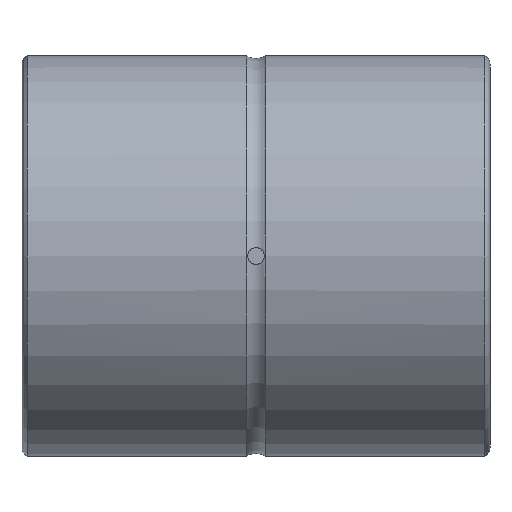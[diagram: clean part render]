
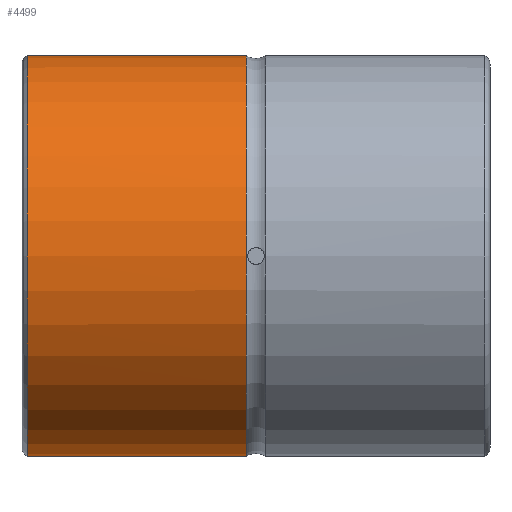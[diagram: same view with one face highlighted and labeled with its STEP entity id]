
A CAD part, front view. The second image highlights one B-rep face of the part: STEP entity #4499.
In plain terms, the highlighted cylindrical face has radius 60 mm (diameter 120 mm), a full revolution.
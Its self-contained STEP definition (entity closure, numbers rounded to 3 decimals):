
#23=B_SPLINE_CURVE_WITH_KNOTS('',3,(#7394,#7395,#7396,#7397,#7398,#7399,
#7400,#7401,#7402,#7403,#7404),.UNSPECIFIED.,.F.,.F.,(4,1,1,1,1,1,1,1,4),
(0.,0.004,0.008,0.012,
0.016,0.02,0.023,0.027,
0.031),.UNSPECIFIED.);
#418=LINE('',#7407,#848);
#419=LINE('',#7408,#849);
#848=VECTOR('',#5933,1000.);
#849=VECTOR('',#5934,1000.);
#1648=ORIENTED_EDGE('',*,*,#2769,.T.);
#1649=ORIENTED_EDGE('',*,*,#2770,.T.);
#1650=ORIENTED_EDGE('',*,*,#2762,.F.);
#1651=ORIENTED_EDGE('',*,*,#2771,.T.);
#1652=ORIENTED_EDGE('',*,*,#2768,.T.);
#2762=EDGE_CURVE('',#3320,#3321,#3643,.T.);
#2768=EDGE_CURVE('',#3326,#3326,#3645,.T.);
#2769=EDGE_CURVE('',#3327,#3328,#23,.T.);
#2770=EDGE_CURVE('',#3328,#3321,#418,.T.);
#2771=EDGE_CURVE('',#3320,#3327,#419,.F.);
#3320=VERTEX_POINT('',#7338);
#3321=VERTEX_POINT('',#7339);
#3326=VERTEX_POINT('',#7392);
#3327=VERTEX_POINT('',#7405);
#3328=VERTEX_POINT('',#7406);
#3643=CIRCLE('',#4940,60.);
#3645=CIRCLE('',#4943,60.);
#3825=EDGE_LOOP('',(#1648,#1649,#1650,#1651));
#3826=EDGE_LOOP('',(#1652));
#4117=FACE_BOUND('',#3825,.T.);
#4118=FACE_BOUND('',#3826,.T.);
#4350=CYLINDRICAL_SURFACE('',#4944,60.);
#4499=ADVANCED_FACE('',(#4117,#4118),#4350,.T.);
#4940=AXIS2_PLACEMENT_3D('',#7337,#5923,#5924);
#4943=AXIS2_PLACEMENT_3D('',#7391,#5929,#5930);
#4944=AXIS2_PLACEMENT_3D('',#7393,#5931,#5932);
#5923=DIRECTION('',(1.,0.,0.));
#5924=DIRECTION('',(0.,0.,-1.));
#5929=DIRECTION('',(1.,0.,0.));
#5930=DIRECTION('',(0.,0.,-1.));
#5931=DIRECTION('',(1.,0.,0.));
#5932=DIRECTION('',(0.,0.,-1.));
#5933=DIRECTION('',(1.,0.,0.));
#5934=DIRECTION('',(1.,0.,0.));
#7337=CARTESIAN_POINT('',(-2.86,0.,0.));
#7338=CARTESIAN_POINT('',(-2.86,59.161,10.));
#7339=CARTESIAN_POINT('',(-2.86,59.161,-10.));
#7391=CARTESIAN_POINT('',(-68.5,0.,0.));
#7392=CARTESIAN_POINT('',(-68.5,0.,-60.));
#7393=CARTESIAN_POINT('',(70.,0.,0.));
#7394=CARTESIAN_POINT('',(-30.,59.161,10.));
#7395=CARTESIAN_POINT('',(-31.324,59.161,10.));
#7396=CARTESIAN_POINT('',(-33.93,59.253,9.476));
#7397=CARTESIAN_POINT('',(-37.256,59.582,7.254));
#7398=CARTESIAN_POINT('',(-39.474,59.909,3.936));
#7399=CARTESIAN_POINT('',(-40.261,60.045,0.008));
#7400=CARTESIAN_POINT('',(-39.481,59.91,-3.923));
#7401=CARTESIAN_POINT('',(-37.259,59.583,-7.251));
#7402=CARTESIAN_POINT('',(-33.934,59.253,-9.474));
#7403=CARTESIAN_POINT('',(-31.324,59.161,-10.));
#7404=CARTESIAN_POINT('',(-30.,59.161,-10.));
#7405=CARTESIAN_POINT('',(-30.,59.161,10.));
#7406=CARTESIAN_POINT('',(-30.,59.161,-10.));
#7407=CARTESIAN_POINT('',(70.,59.161,-10.));
#7408=CARTESIAN_POINT('',(70.,59.161,10.));
